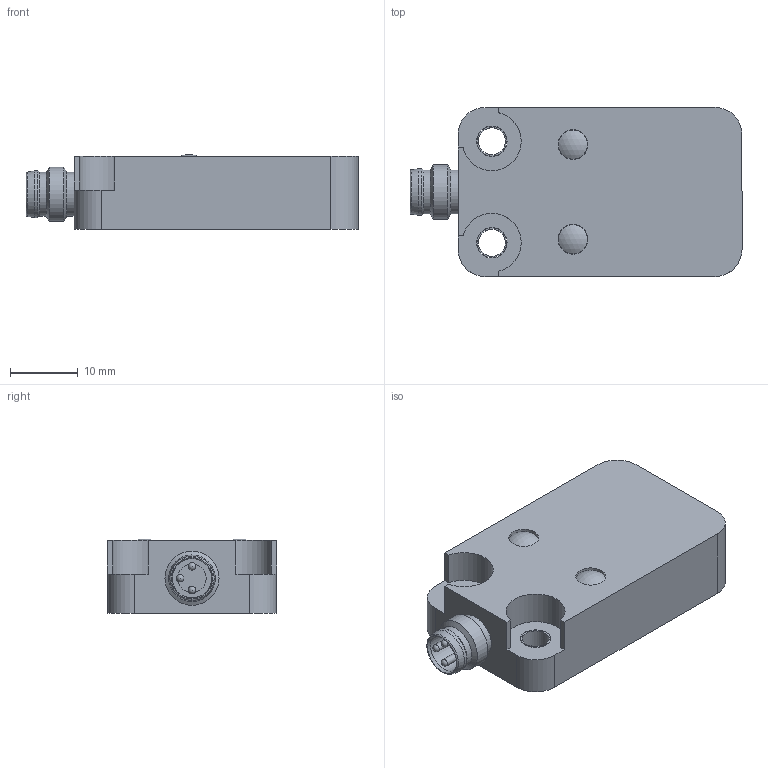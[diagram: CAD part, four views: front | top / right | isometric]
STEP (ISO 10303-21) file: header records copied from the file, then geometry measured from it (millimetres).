
FILE_DESCRIPTION((''),'2;1');
FILE_NAME('C:\TurckZip\Q10-X2-V1131.stp','2007-10-19T09:45:57',('IKOROL'),(''),'Autodesk Inventor 2008','Autodesk Inventor 2008','');
FILE_SCHEMA(('AUTOMOTIVE_DESIGN { 1 2 10303 214 0 1 1 1 }'));
Length unit declared in the file: millimetre
Products named in the file (1): Part1
Bounding box: 49.1 x 25 x 11.07 mm (x, y, z)
Volume: 10523.2 mm3; surface area: 4321.8 mm2
Topology: 3 solids, 3 shells, 59 faces, 136 edges, 87 vertices
Faces by surface type: cylinder 27, plane 21, sphere 5, cone 5, torus 1
Full cylindrical faces by diameter (mm): 1.1 x3, 4 x2, 4.3 x2, 4.4 x4, 4.5 x2, 5.8 x1, 6.5 x2, 6.899 x1, 8 x1
Entity records: 1635 total; most frequent: DIRECTION 282, CARTESIAN_POINT 242, ORIENTED_EDGE 204, AXIS2_PLACEMENT_3D 120, EDGE_CURVE 102, EDGE_LOOP 98, VERTEX_POINT 80, STYLED_ITEM 61
